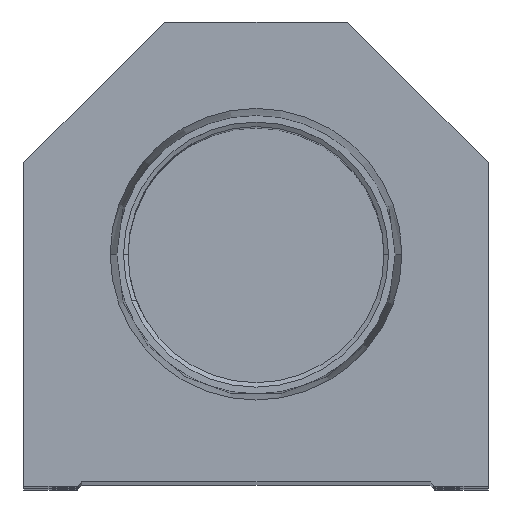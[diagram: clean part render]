
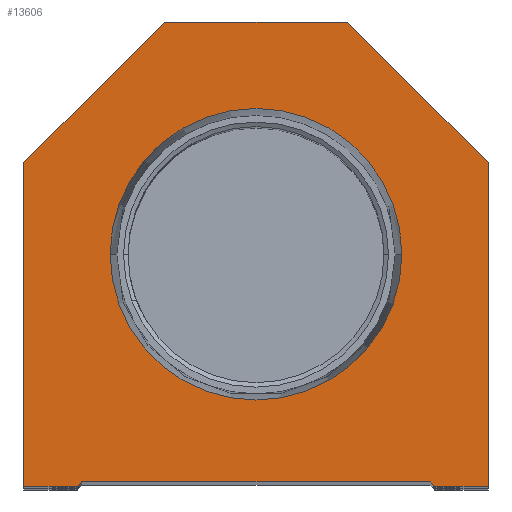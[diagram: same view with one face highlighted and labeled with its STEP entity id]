
A CAD part, top view. The second image highlights one B-rep face of the part: STEP entity #13606.
In plain terms, the highlighted planar face has unit normal (0, 0, 1).
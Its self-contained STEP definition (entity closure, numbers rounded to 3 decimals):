
#261 = CARTESIAN_POINT ( 'NONE',  ( 25.4, 35.4, 0. ) ) ;
#278 = EDGE_CURVE ( 'NONE', #7133, #12040, #13969, .T. ) ;
#279 = CARTESIAN_POINT ( 'NONE',  ( -25.4, 0., 0. ) ) ;
#356 = CARTESIAN_POINT ( 'NONE',  ( 19.05, 0.5, 0. ) ) ;
#497 = DIRECTION ( 'NONE',  ( 0., 0., 1. ) ) ;
#665 = LINE ( 'NONE', #13752, #17787 ) ;
#768 = DIRECTION ( 'NONE',  ( 1., 0., 0. ) ) ;
#841 = VECTOR ( 'NONE', #5043, 1000. ) ;
#969 = CARTESIAN_POINT ( 'NONE',  ( 25.4, 0., 0. ) ) ;
#983 = ORIENTED_EDGE ( 'NONE', *, *, #10324, .T. ) ;
#1204 = DIRECTION ( 'NONE',  ( 1., 0., 0. ) ) ;
#1470 = ORIENTED_EDGE ( 'NONE', *, *, #13431, .T. ) ;
#1823 = VECTOR ( 'NONE', #3511, 1000. ) ;
#2075 = VERTEX_POINT ( 'NONE', #7145 ) ;
#2269 = VECTOR ( 'NONE', #14520, 1000. ) ;
#2494 = CARTESIAN_POINT ( 'NONE',  ( -19.05, 0., 0. ) ) ;
#2771 = CARTESIAN_POINT ( 'NONE',  ( 0., 0., 0. ) ) ;
#2874 = PLANE ( 'NONE',  #9856 ) ;
#2999 = EDGE_CURVE ( 'NONE', #9880, #10378, #665, .T. ) ;
#3191 = CARTESIAN_POINT ( 'NONE',  ( -9.775, 9.775, 0. ) ) ;
#3305 = EDGE_CURVE ( 'NONE', #19380, #8428, #8141, .T. ) ;
#3511 = DIRECTION ( 'NONE',  ( 0.707, -0.707, 0. ) ) ;
#3559 = VERTEX_POINT ( 'NONE', #7496 ) ;
#3658 = VERTEX_POINT ( 'NONE', #19518 ) ;
#3687 = CARTESIAN_POINT ( 'NONE',  ( 10., 50.8, 0. ) ) ;
#3798 = VECTOR ( 'NONE', #5400, 1000. ) ;
#3932 = CARTESIAN_POINT ( 'NONE',  ( 15.947, 25.4, 0. ) ) ;
#4104 = DIRECTION ( 'NONE',  ( -0.707, 0.707, 0. ) ) ;
#4218 = VECTOR ( 'NONE', #9838, 1000. ) ;
#4363 = EDGE_CURVE ( 'NONE', #3559, #3658, #13398, .T. ) ;
#4398 = ORIENTED_EDGE ( 'NONE', *, *, #16036, .F. ) ;
#4544 = EDGE_CURVE ( 'NONE', #10378, #19380, #19386, .T. ) ;
#4657 = ORIENTED_EDGE ( 'NONE', *, *, #4363, .T. ) ;
#5043 = DIRECTION ( 'NONE',  ( 0., -1., 0. ) ) ;
#5163 = CARTESIAN_POINT ( 'NONE',  ( 9.775, 9.775, 0. ) ) ;
#5400 = DIRECTION ( 'NONE',  ( 1., 0., 0. ) ) ;
#6166 = LINE ( 'NONE', #14074, #17140 ) ;
#6196 = ORIENTED_EDGE ( 'NONE', *, *, #7667, .T. ) ;
#6250 = ORIENTED_EDGE ( 'NONE', *, *, #13241, .T. ) ;
#6480 = CARTESIAN_POINT ( 'NONE',  ( 19.55, 0., 0. ) ) ;
#6559 = CARTESIAN_POINT ( 'NONE',  ( 19.05, 0., 0. ) ) ;
#6993 = AXIS2_PLACEMENT_3D ( 'NONE', #9278, #18898, #15582 ) ;
#7133 = VERTEX_POINT ( 'NONE', #261 ) ;
#7145 = CARTESIAN_POINT ( 'NONE',  ( -15.947, 25.4, 0. ) ) ;
#7238 = ORIENTED_EDGE ( 'NONE', *, *, #12601, .T. ) ;
#7496 = CARTESIAN_POINT ( 'NONE',  ( -25.4, 0., 0. ) ) ;
#7655 = DIRECTION ( 'NONE',  ( 0., 1., 0. ) ) ;
#7667 = EDGE_CURVE ( 'NONE', #19020, #18057, #17627, .T. ) ;
#8140 = ORIENTED_EDGE ( 'NONE', *, *, #278, .T. ) ;
#8141 = LINE ( 'NONE', #6559, #11476 ) ;
#8364 = DIRECTION ( 'NONE',  ( 1., 0., 0. ) ) ;
#8428 = VERTEX_POINT ( 'NONE', #969 ) ;
#8677 = CARTESIAN_POINT ( 'NONE',  ( -25.4, 35.4, 0. ) ) ;
#8897 = CIRCLE ( 'NONE', #14841, 15.947 ) ;
#9278 = CARTESIAN_POINT ( 'NONE',  ( 0., 25.4, 0. ) ) ;
#9738 = CARTESIAN_POINT ( 'NONE',  ( -25.4, 35.4, 0. ) ) ;
#9815 = DIRECTION ( 'NONE',  ( -1., 0., 0. ) ) ;
#9838 = DIRECTION ( 'NONE',  ( 0.707, 0.707, 0. ) ) ;
#9856 = AXIS2_PLACEMENT_3D ( 'NONE', #2771, #15413, #1204 ) ;
#9880 = VERTEX_POINT ( 'NONE', #13433 ) ;
#10098 = ORIENTED_EDGE ( 'NONE', *, *, #4544, .T. ) ;
#10324 = EDGE_CURVE ( 'NONE', #12040, #19020, #17811, .T. ) ;
#10378 = VERTEX_POINT ( 'NONE', #356 ) ;
#11214 = VECTOR ( 'NONE', #4104, 1000. ) ;
#11370 = LINE ( 'NONE', #279, #841 ) ;
#11476 = VECTOR ( 'NONE', #8364, 1000. ) ;
#11499 = ORIENTED_EDGE ( 'NONE', *, *, #19167, .F. ) ;
#11609 = CARTESIAN_POINT ( 'NONE',  ( 0., 25.4, 0. ) ) ;
#12040 = VERTEX_POINT ( 'NONE', #12304 ) ;
#12304 = CARTESIAN_POINT ( 'NONE',  ( 10., 50.8, 0. ) ) ;
#12601 = EDGE_CURVE ( 'NONE', #18057, #3559, #11370, .T. ) ;
#12650 = CIRCLE ( 'NONE', #6993, 15.947 ) ;
#12962 = ORIENTED_EDGE ( 'NONE', *, *, #3305, .T. ) ;
#13241 = EDGE_CURVE ( 'NONE', #3658, #9880, #15850, .T. ) ;
#13398 = LINE ( 'NONE', #2494, #3798 ) ;
#13431 = EDGE_CURVE ( 'NONE', #8428, #7133, #6166, .T. ) ;
#13433 = CARTESIAN_POINT ( 'NONE',  ( -19.05, 0.5, 0. ) ) ;
#13606 = ADVANCED_FACE ( 'NONE', ( #17083, #18549 ), #2874, .T. ) ;
#13722 = VECTOR ( 'NONE', #9815, 1000. ) ;
#13752 = CARTESIAN_POINT ( 'NONE',  ( -19.05, 0.5, 0. ) ) ;
#13969 = LINE ( 'NONE', #16972, #11214 ) ;
#14074 = CARTESIAN_POINT ( 'NONE',  ( 25.4, 0., 0. ) ) ;
#14520 = DIRECTION ( 'NONE',  ( -0.707, -0.707, 0. ) ) ;
#14841 = AXIS2_PLACEMENT_3D ( 'NONE', #11609, #497, #15024 ) ;
#15024 = DIRECTION ( 'NONE',  ( 1., 0., 0. ) ) ;
#15413 = DIRECTION ( 'NONE',  ( 0., 0., 1. ) ) ;
#15582 = DIRECTION ( 'NONE',  ( 1., 0., 0. ) ) ;
#15850 = LINE ( 'NONE', #3191, #4218 ) ;
#15949 = VERTEX_POINT ( 'NONE', #3932 ) ;
#16036 = EDGE_CURVE ( 'NONE', #2075, #15949, #8897, .T. ) ;
#16972 = CARTESIAN_POINT ( 'NONE',  ( 25.4, 35.4, 0. ) ) ;
#17083 = FACE_BOUND ( 'NONE', #20041, .T. ) ;
#17140 = VECTOR ( 'NONE', #7655, 1000. ) ;
#17627 = LINE ( 'NONE', #9738, #2269 ) ;
#17787 = VECTOR ( 'NONE', #768, 1000. ) ;
#17811 = LINE ( 'NONE', #3687, #13722 ) ;
#18057 = VERTEX_POINT ( 'NONE', #8677 ) ;
#18071 = ORIENTED_EDGE ( 'NONE', *, *, #2999, .T. ) ;
#18549 = FACE_OUTER_BOUND ( 'NONE', #19697, .T. ) ;
#18898 = DIRECTION ( 'NONE',  ( 0., 0., 1. ) ) ;
#19020 = VERTEX_POINT ( 'NONE', #20051 ) ;
#19167 = EDGE_CURVE ( 'NONE', #15949, #2075, #12650, .T. ) ;
#19380 = VERTEX_POINT ( 'NONE', #6480 ) ;
#19386 = LINE ( 'NONE', #5163, #1823 ) ;
#19518 = CARTESIAN_POINT ( 'NONE',  ( -19.55, 0., 0. ) ) ;
#19697 = EDGE_LOOP ( 'NONE', ( #4657, #6250, #18071, #10098, #12962, #1470, #8140, #983, #6196, #7238 ) ) ;
#20041 = EDGE_LOOP ( 'NONE', ( #11499, #4398 ) ) ;
#20051 = CARTESIAN_POINT ( 'NONE',  ( -10., 50.8, 0. ) ) ;
